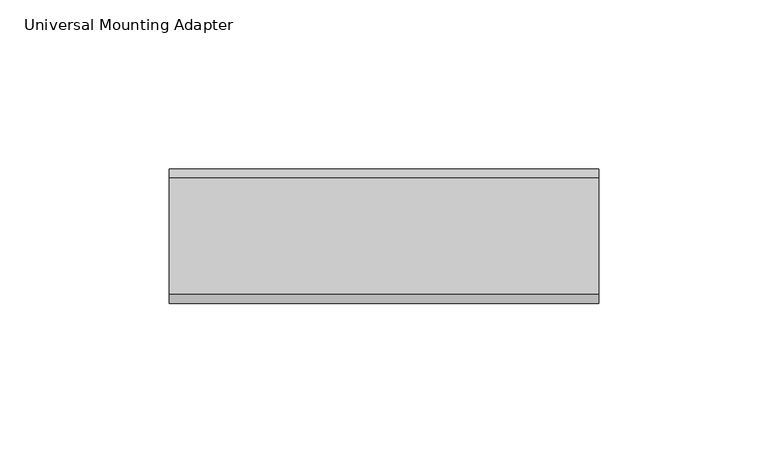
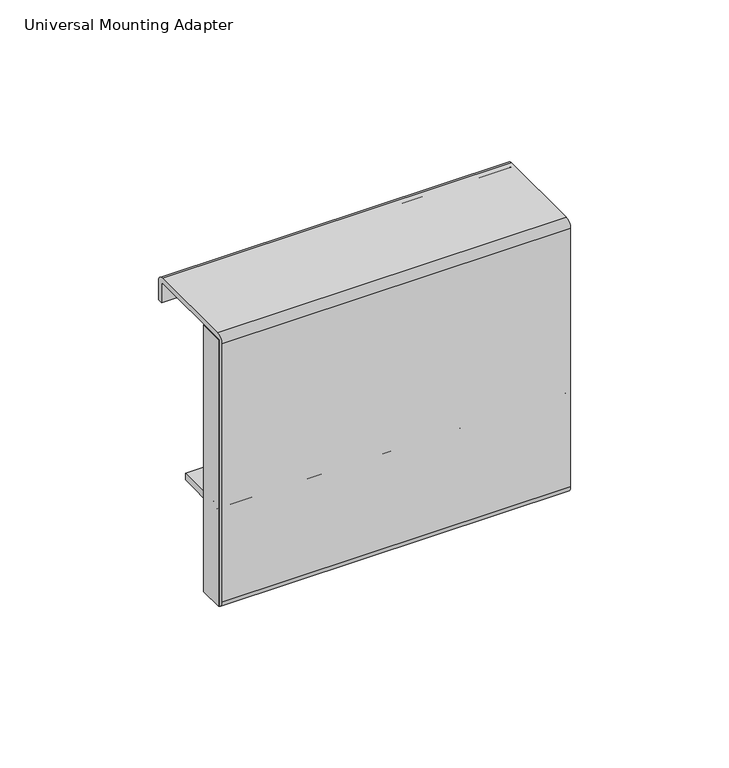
"""IFC4 building model written with IfcOpenShell, lengths in millimetres: furniture geometry, Accessories-Teknion-FHRA-AI_Healthcare-Mounting_Adapter-R2021 : Universal Mounting Adapter."""

from ifc_helpers import new_model, si_unit, point, frame, frame_2d, origin, place, context, project, spatial, polyline, circle_curve, trimmed, segment, composite_curve, outline, extrude, source, transform, mapped, element, save


def universal_mounting_adapter_0a4e83d9(model_context):
    return source(origin(), model_context, "Body", "SweptSolid", [
        extrude(outline(polyline([(-62.9642711, -19.6635228), (-62.9642711, -10.3214033), (-59.7892696, -10.3214033), (-59.7892696, -19.6635228), (-62.9642711, -19.6635228)])), frame((0.0, 0.0, 758.8249969), z_axis=(0.0, 0.0, 1.0), x_axis=(1.0, 0.0, 0.0)), (0.0, 0.0, 1.0), 102.6236174),
        extrude(outline(polyline([(64.0357289, -19.6635228), (60.8607273, -19.6635228), (60.8607273, -10.3214033), (64.0357289, -10.3214033), (64.0357289, -19.6635228)])), frame((0.0, 0.0, 758.8249969), z_axis=(0.0, 0.0, 1.0), x_axis=(1.0, 0.0, 0.0)), (0.0, 0.0, 1.0), 102.6236174),
        extrude(outline(composite_curve([segment(trimmed(circle_curve(frame_2d((-18.9269228, 860.96602)), 2.63398), [point((-21.5609028, 860.96602))], [point((-18.9269228, 863.6))], False, "CARTESIAN"), True, "CONTINUOUS"), segment(polyline([(-18.9269228, 863.6), (15.6119962, 863.6)]), True, "CONTINUOUS"), segment(trimmed(circle_curve(frame_2d((15.6119962, 860.9660174)), 2.6339826), [point((15.6119962, 863.6))], [point((18.2459788, 860.9660174))], False, "CARTESIAN"), True, "CONTINUOUS"), segment(polyline([(18.2459788, 860.9660174), (18.2459788, 853.765117), (16.3485973, 853.765117), (16.3485973, 860.9660129)]), True, "CONTINUOUS"), segment(trimmed(circle_curve(frame_2d((15.6119962, 860.9660129)), 0.7366011), [point((16.3485973, 860.9660129))], [point((15.6119962, 861.702614))], True, "CARTESIAN"), True, "CONTINUOUS"), segment(polyline([(15.6119962, 861.702614), (-18.9269228, 861.702614)]), True, "CONTINUOUS"), segment(trimmed(circle_curve(frame_2d((-18.9269228, 860.966014)), 0.7366), [point((-18.9269228, 861.702614))], [point((-19.6635228, 860.966014))], True, "CARTESIAN"), True, "CONTINUOUS"), segment(polyline([(-19.6635228, 860.966014), (-19.6635228, 826.5020282), (-17.006683, 826.5020282), (-17.006683, 798.1454674)]), True, "CONTINUOUS"), segment(trimmed(circle_curve(frame_2d((-16.2700819, 798.1454674)), 0.7366011), [point((-17.006683, 798.1454674))], [point((-16.2700819, 797.4088663))], True, "CARTESIAN"), True, "CONTINUOUS"), segment(polyline([(-16.2700819, 797.4088663), (1.2673458, 797.4088663), (1.2673458, 794.7520267), (-16.270083, 794.7520267)]), True, "CONTINUOUS"), segment(trimmed(circle_curve(frame_2d((-16.270083, 798.1454689)), 3.3934422), [point((-16.270083, 794.7520267))], [point((-19.6635251, 798.1454689))], False, "CARTESIAN"), True, "CONTINUOUS"), segment(polyline([(-19.6635251, 798.1454689), (-19.6635251, 761.4589605)]), True, "CONTINUOUS"), segment(trimmed(circle_curve(frame_2d((-18.9269417, 761.4589605)), 0.7365835), [point((-19.6635251, 761.4589605))], [point((-18.9269414, 760.7223771))], True, "CARTESIAN"), True, "CONTINUOUS"), segment(polyline([(-18.9269414, 760.7223771), (-10.3214033, 760.7223771), (-10.3214033, 758.8249969), (-18.9269262, 758.8249969)]), True, "CONTINUOUS"), segment(trimmed(circle_curve(frame_2d((-18.9269262, 761.4589735)), 2.6339766), [point((-18.9269262, 758.8249969))], [point((-21.5609028, 761.4589735))], False, "CARTESIAN"), True, "CONTINUOUS"), segment(polyline([(-21.5609028, 761.4589735), (-21.5609028, 860.96602)]), True, "CONTINUOUS")], self_intersect=False)), frame((-62.9642711, 0.0, 0.0), z_axis=(1.0, 0.0, 0.0), x_axis=(0.0, 1.0, 0.0)), (0.0, 0.0, 1.0), 127.0),
    ])


if __name__ == "__main__":
    model = new_model("IFC4")
    model_context = context("Model", 3, world=origin())
    ifc_project = project(units=[si_unit("LENGTHUNIT", "METRE", prefix="MILLI")], contexts=[model_context])
    site = spatial("IfcSite", under=ifc_project)
    building = spatial("IfcBuilding", under=site)
    placement = place(None, origin())
    universal_mounting_adapter_shape = universal_mounting_adapter_0a4e83d9(model_context)
    element("IfcFurniture", 1, ObjectType="Accessories-Teknion-FHRA-AI_Healthcare-Mounting_Adapter-R2021 : Universal Mounting Adapter", at=placement, inside=building, context=model_context, shape_type="MappedRepresentation", body=[
        mapped(universal_mounting_adapter_shape, transform((0.0, 0.0, 0.0), x_axis=(1.0, 0.0, 0.0), y_axis=(0.0, 1.0, 0.0), z_axis=(0.0, 0.0, 1.0))),
    ])
    save(model, "model.ifc")
